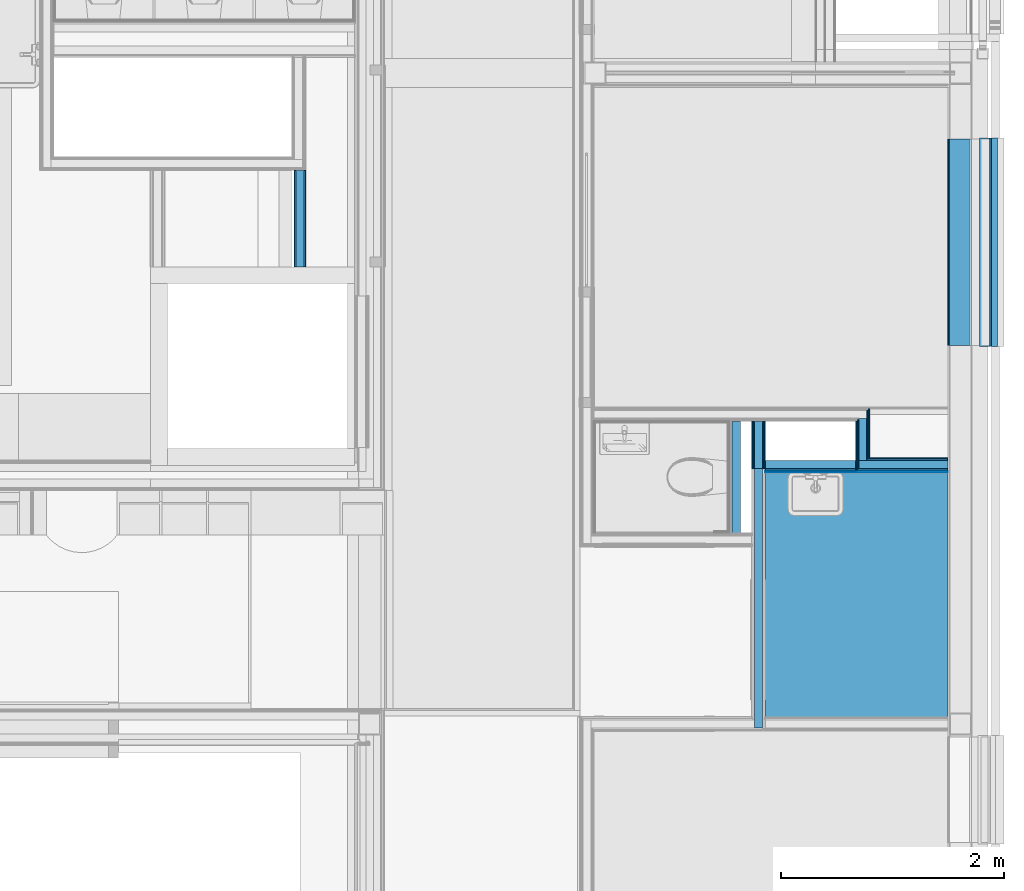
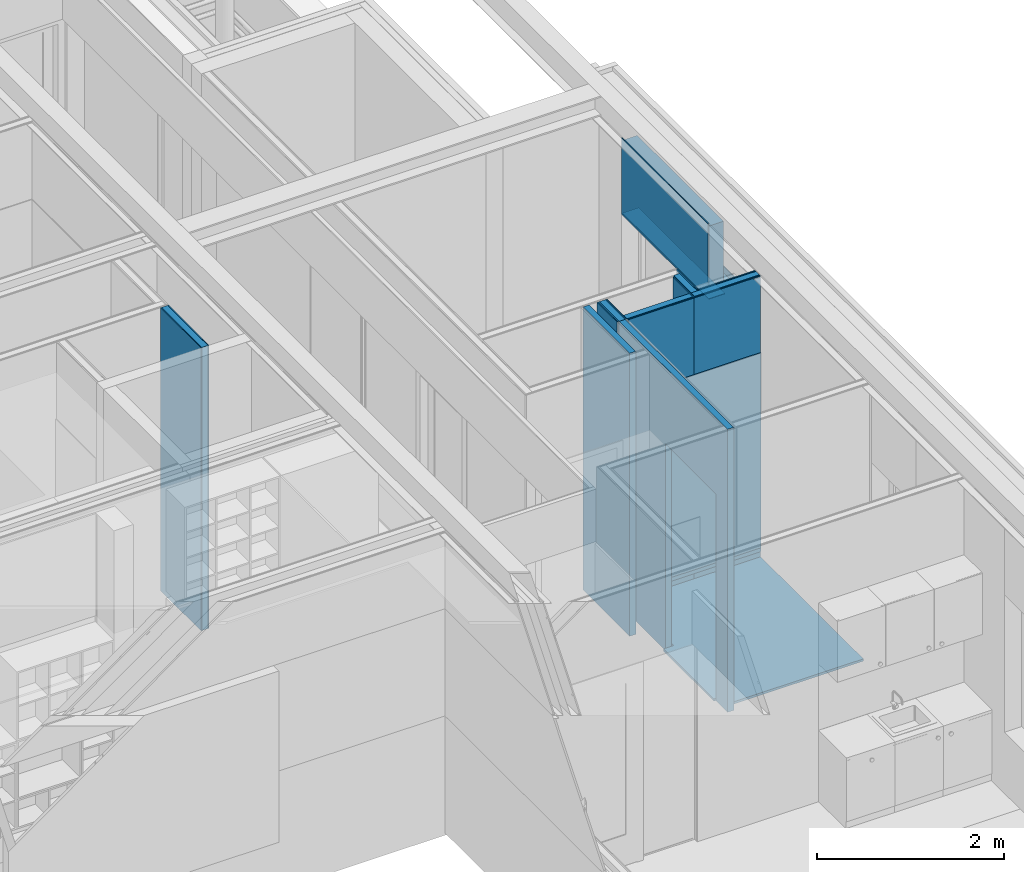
# One storey, part 74 of 137: 31 building element parts, 1 opening, 11 elements without a shape of their own.
"""IFC2X3 building model written with IfcOpenShell, lengths in millimetres."""

from ifc_helpers import new_model, entity, si_unit, converted_unit, derived_unit, money_unit, direction, frame, origin_with_axes, place, context, subcontext, project, spatial, faceted_brep, material, type_object, element, aggregate, save


model = new_model("IFC2X3")

# Units and contexts
model_context = context("Model", 3, precision=0.01, world=origin_with_axes(), true_north=direction((0.0, 1.0)))
body_context = subcontext(model_context, "Body", "Model", "MODEL_VIEW")
ifc_project = project(units=[si_unit("LENGTHUNIT", "METRE", prefix="MILLI"), si_unit("AREAUNIT", "SQUARE_METRE"), si_unit("VOLUMEUNIT", "CUBIC_METRE"), converted_unit("PLANEANGLEUNIT", "DEGREE", entity("IfcPlaneAngleMeasure", 0.0174532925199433), si_unit("PLANEANGLEUNIT", "RADIAN"), dimensions=[0, 0, 0, 0, 0, 0, 0]), money_unit("EUR"), converted_unit("TIMEUNIT", "Year", entity("IfcTimeMeasure", 31556926.0), si_unit("TIMEUNIT", "SECOND"), dimensions=[0, 0, 1, 0, 0, 0, 0]), si_unit("MASSUNIT", "GRAM", prefix="KILO"), si_unit("THERMODYNAMICTEMPERATUREUNIT", "DEGREE_CELSIUS"), si_unit("LUMINOUSINTENSITYUNIT", "LUMEN"), si_unit("ENERGYUNIT", "JOULE", prefix="MEGA"), derived_unit("THERMALCONDUCTANCEUNIT", [(si_unit("POWERUNIT", "WATT"), 1), (si_unit("LENGTHUNIT", "METRE"), -1), (si_unit("THERMODYNAMICTEMPERATUREUNIT", "KELVIN"), -1)]), derived_unit("SPECIFICHEATCAPACITYUNIT", [(si_unit("ENERGYUNIT", "JOULE"), 1), (si_unit("MASSUNIT", "GRAM", prefix="KILO"), -1), (si_unit("THERMODYNAMICTEMPERATUREUNIT", "KELVIN"), -1)]), derived_unit("MASSDENSITYUNIT", [(si_unit("MASSUNIT", "GRAM", prefix="KILO"), 1), (si_unit("VOLUMEUNIT", "CUBIC_METRE"), -1)])], contexts=[model_context])

# Site, building, storey
site_placement = place(None, origin_with_axes())
site = spatial("IfcSite", under=ifc_project, at=site_placement, Name="Site", CompositionType="ELEMENT")
building_placement = place(site_placement, origin_with_axes())
building = spatial("IfcBuilding", under=site, at=building_placement, Name="Naam gebouw", CompositionType="ELEMENT")
storey_placement = place(building_placement, frame((0.0, 0.0, 3960.0), z_axis=(0.0, 0.0, 1.0), x_axis=(1.0, 0.0, 0.0)))
storey = spatial("IfcBuildingStorey", under=building, at=storey_placement, Name="1e verdieping", CompositionType="ELEMENT", Elevation=3960.0)

# Proxy, building element parts
building_element_proxy_type_1 = type_object("IfcBuildingElementProxyType", Name="22 Metal stud 125 gips 125", PredefinedType="NOTDEFINED")
proxy_1_placement = place(storey_placement, frame((29899.99999999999, 13199.99777686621, -100.0000000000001), z_axis=(0.0, 0.0, 1.0), x_axis=(-1.0, 0.0, 0.0)))
proxy_1 = element("IfcBuildingElementProxy", 1, at=proxy_1_placement, inside=storey, type_object=building_element_proxy_type_1, Name="_Wand-x")
ifc_material_1 = material(Name="Gipsplaat")
building_element_part_1_placement = place(proxy_1_placement, origin_with_axes())
building_element_part_1 = element("IfcBuildingElementPart", 2, at=building_element_part_1_placement, material=ifc_material_1, Name="Gipsplaat", context=body_context, shape_type="Brep", body=[
    faceted_brep([(213.9999999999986, 125.0, 3695.000001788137), (213.9999999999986, 112.5000000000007, 3695.000001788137), (213.9999999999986, 112.5000000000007, 3700.0), (213.9999999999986, 125.0, 3700.0), (299.0000049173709, 112.5000000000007, 3695.000001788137), (299.0000049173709, 125.0, 3695.000001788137), (299.0000049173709, 112.5000000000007, 3685.000001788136), (213.9999999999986, 112.5000000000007, 3685.000001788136), (213.9999999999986, 112.5000000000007, 0.0), (1038.999999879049, 112.5000000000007, 0.0), (1038.999999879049, 112.5000000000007, 3700.0), (1038.999999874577, 125.0, 3700.0), (1038.999999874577, 125.0, 0.0), (213.9999999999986, 125.0, 0.0), (213.9999999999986, 125.0, 3685.000001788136), (299.0000049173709, 125.0, 3685.000001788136)], [[[0, 1, 2, 3]], [[4, 1, 0, 5]], [[6, 7, 8, 9, 10, 2, 1, 4]], [[10, 11, 3, 2]], [[5, 0, 3, 11, 12, 13, 14, 15]], [[6, 4, 5, 15]], [[14, 7, 6, 15]], [[7, 14, 13, 8]], [[12, 9, 8, 13]], [[9, 12, 11, 10]]]),
])
ifc_material_2 = material(Name="ALG - LICHTE SCHEIDINGSWAND")
building_element_part_2_placement = place(proxy_1_placement, origin_with_axes())
building_element_part_2 = element("IfcBuildingElementPart", 3, at=building_element_part_2_placement, material=ifc_material_2, Name="ALG - LICHTE SCHEIDINGSWAND", context=body_context, shape_type="Brep", body=[
    faceted_brep([(213.9999999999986, 99.99999999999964, 3695.000001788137), (213.9999999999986, 25.00000000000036, 3695.000001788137), (213.9999999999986, 25.00000000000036, 3700.0), (213.9999999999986, 99.99999999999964, 3700.0), (299.0000049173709, 25.00000000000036, 3695.000001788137), (299.0000049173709, 99.99999999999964, 3695.000001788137), (299.0000049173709, 25.00000000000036, 3685.000001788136), (213.9999999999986, 25.00000000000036, 3685.000001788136), (213.9999999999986, 25.00000000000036, 0.0), (1013.999999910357, 25.00000000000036, 0.0), (1013.999999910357, 25.00000000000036, 3700.0), (1013.999999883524, 99.99999999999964, 3700.0), (1013.999999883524, 99.99999999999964, 0.0), (213.9999999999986, 99.99999999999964, 0.0), (213.9999999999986, 99.99999999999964, 3685.000001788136), (299.0000049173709, 99.99999999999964, 3685.000001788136)], [[[0, 1, 2, 3]], [[4, 1, 0, 5]], [[6, 7, 8, 9, 10, 2, 1, 4]], [[10, 11, 3, 2]], [[5, 0, 3, 11, 12, 13, 14, 15]], [[6, 4, 5, 15]], [[14, 7, 6, 15]], [[7, 14, 13, 8]], [[12, 9, 8, 13]], [[9, 12, 11, 10]]]),
])
building_element_part_3_placement = place(proxy_1_placement, origin_with_axes())
building_element_part_3 = element("IfcBuildingElementPart", 4, at=building_element_part_3_placement, material=ifc_material_1, Name="Gipsplaat", context=body_context, shape_type="Brep", body=[
    faceted_brep([(213.9999999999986, 25.00000000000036, 3695.000001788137), (213.9999999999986, 12.50000000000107, 3695.000001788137), (213.9999999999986, 12.50000000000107, 3700.0), (213.9999999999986, 25.00000000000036, 3700.0), (299.0000049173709, 12.49999999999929, 3695.000001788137), (299.0000049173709, 25.00000000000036, 3695.000001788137), (299.0000049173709, 12.49999999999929, 3685.000001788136), (213.9999999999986, 12.50000000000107, 3685.000001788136), (213.9999999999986, 12.49999999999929, 0.0), (938.9999999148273, 12.49999999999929, 0.0), (938.9999999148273, 12.49999999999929, 3700.0), (938.9999999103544, 25.00000000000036, 3700.0), (938.9999999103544, 25.00000000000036, 0.0), (213.9999999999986, 25.00000000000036, 0.0), (213.9999999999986, 25.00000000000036, 3685.000001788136), (299.0000049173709, 25.00000000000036, 3685.000001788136)], [[[0, 1, 2, 3]], [[4, 1, 0, 5]], [[6, 7, 8, 9, 10, 2, 1, 4]], [[10, 11, 3, 2]], [[5, 0, 3, 11, 12, 13, 14, 15]], [[6, 4, 5, 15]], [[14, 7, 6, 15]], [[7, 14, 13, 8]], [[12, 9, 8, 13]], [[9, 12, 11, 10]]]),
])
building_element_part_4_placement = place(proxy_1_placement, origin_with_axes())
building_element_part_4 = element("IfcBuildingElementPart", 5, at=building_element_part_4_placement, material=ifc_material_1, Name="Gipsplaat", context=body_context, shape_type="Brep", body=[
    faceted_brep([(213.9999999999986, 112.5000000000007, 3695.000001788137), (213.9999999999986, 99.99999999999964, 3695.000001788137), (213.9999999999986, 99.99999999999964, 3700.0), (213.9999999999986, 112.5000000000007, 3700.0), (299.0000049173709, 99.99999999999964, 3695.000001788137), (299.0000049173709, 112.5000000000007, 3695.000001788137), (299.0000049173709, 99.99999999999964, 3685.000001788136), (213.9999999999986, 99.99999999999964, 3685.000001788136), (213.9999999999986, 99.99999999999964, 0.0), (1026.499999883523, 99.99999999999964, 0.0), (1026.499999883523, 99.99999999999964, 3700.0), (1026.49999987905, 112.5000000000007, 3700.0), (1026.49999987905, 112.5000000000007, 0.0), (213.9999999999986, 112.5000000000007, 0.0), (213.9999999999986, 112.5000000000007, 3685.000001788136), (299.0000049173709, 112.5000000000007, 3685.000001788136)], [[[0, 1, 2, 3]], [[4, 1, 0, 5]], [[6, 7, 8, 9, 10, 2, 1, 4]], [[10, 11, 3, 2]], [[5, 0, 3, 11, 12, 13, 14, 15]], [[6, 4, 5, 15]], [[14, 7, 6, 15]], [[7, 14, 13, 8]], [[12, 9, 8, 13]], [[9, 12, 11, 10]]]),
])
building_element_part_5_placement = place(proxy_1_placement, origin_with_axes())
building_element_part_5 = element("IfcBuildingElementPart", 6, at=building_element_part_5_placement, material=ifc_material_1, Name="Gipsplaat", context=body_context, shape_type="Brep", body=[
    faceted_brep([(213.9999999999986, 12.50000000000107, 3695.000001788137), (213.9999999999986, 0.0, 3695.000001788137), (213.9999999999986, 0.0, 3700.0), (213.9999999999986, 12.50000000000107, 3700.0), (299.0000049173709, 0.0, 3695.000001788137), (299.0000049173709, 12.49999999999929, 3695.000001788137), (299.0000049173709, 0.0, 3685.000001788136), (213.9999999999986, 0.0, 3685.000001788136), (213.9999999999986, 0.0, 0.0), (926.4999999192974, 0.0, 0.0), (926.4999999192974, 0.0, 3700.0), (926.499999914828, 12.49999999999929, 3700.0), (926.499999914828, 12.49999999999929, 0.0), (213.9999999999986, 12.49999999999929, 0.0), (213.9999999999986, 12.50000000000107, 3685.000001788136), (299.0000049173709, 12.49999999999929, 3685.000001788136)], [[[0, 1, 2, 3]], [[4, 1, 0, 5]], [[6, 7, 8, 9, 10, 2, 1, 4]], [[10, 11, 3, 2]], [[5, 0, 3, 11, 12, 13, 14, 15]], [[6, 4, 5, 15]], [[14, 7, 6, 15]], [[7, 14, 13, 8]], [[12, 9, 8, 13]], [[9, 12, 11, 10]]]),
])
aggregate(proxy_1, [building_element_part_1, building_element_part_2, building_element_part_3, building_element_part_4, building_element_part_5])

proxy_2_placement = place(storey_placement, frame((27924.99764555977, 13649.99778166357, -100.0000000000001), z_axis=(0.0, 0.0, 1.0), x_axis=(0.0, -1.0, 0.0)))
proxy_2 = element("IfcBuildingElementProxy", 7, at=proxy_2_placement, inside=storey, type_object=building_element_proxy_type_1, Name="_Wand-x")
building_element_part_6_placement = place(proxy_2_placement, origin_with_axes())
building_element_part_6 = element("IfcBuildingElementPart", 8, at=building_element_part_6_placement, material=ifc_material_2, Name="ALG - LICHTE SCHEIDINGSWAND", context=body_context, shape_type="Brep", body=[
    faceted_brep([(549.999999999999, 100.0000000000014, 0.0), (549.999999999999, 24.99999999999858, 0.0), (125.0, 24.99999999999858, 0.0), (125.0, 100.0000000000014, 0.0), (549.999999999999, 100.0000000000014, 3700.0), (549.999999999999, 24.99999999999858, 3700.0), (125.0, 24.99999999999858, 3700.0), (125.0, 100.0000000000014, 3700.0)], [[[0, 1, 2, 3]], [[0, 4, 5, 1]], [[1, 5, 6, 2]], [[3, 2, 6, 7]], [[4, 0, 3, 7]], [[5, 4, 7, 6]]]),
])
building_element_part_7_placement = place(proxy_2_placement, origin_with_axes())
building_element_part_7 = element("IfcBuildingElementPart", 9, at=building_element_part_7_placement, material=ifc_material_1, Name="Gipsplaat", context=body_context, shape_type="Brep", body=[
    faceted_brep([(549.999999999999, 24.99999999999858, 0.0), (549.999999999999, 12.49999999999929, 0.0), (125.0, 12.49999999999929, 0.0), (125.0, 24.99999999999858, 0.0), (549.999999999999, 24.99999999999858, 3700.0), (549.999999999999, 12.49999999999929, 3700.0), (125.0, 12.49999999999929, 3700.0), (125.0, 24.99999999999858, 3700.0)], [[[0, 1, 2, 3]], [[0, 4, 5, 1]], [[1, 5, 6, 2]], [[3, 2, 6, 7]], [[4, 0, 3, 7]], [[5, 4, 7, 6]]]),
])
building_element_part_8_placement = place(proxy_2_placement, origin_with_axes())
building_element_part_8 = element("IfcBuildingElementPart", 10, at=building_element_part_8_placement, material=ifc_material_1, Name="Gipsplaat", context=body_context, shape_type="Brep", body=[
    faceted_brep([(549.999999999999, 12.49999999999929, 0.0), (549.999999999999, 0.0, 0.0), (125.0, 0.0, 0.0), (125.0, 12.49999999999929, 0.0), (549.999999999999, 12.49999999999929, 3700.0), (549.999999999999, 0.0, 3700.0), (125.0, 0.0, 3700.0), (125.0, 12.49999999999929, 3700.0)], [[[0, 1, 2, 3]], [[0, 4, 5, 1]], [[1, 5, 6, 2]], [[3, 2, 6, 7]], [[4, 0, 3, 7]], [[5, 4, 7, 6]]]),
])
building_element_part_9_placement = place(proxy_2_placement, origin_with_axes())
building_element_part_9 = element("IfcBuildingElementPart", 11, at=building_element_part_9_placement, material=ifc_material_1, Name="Gipsplaat", context=body_context, shape_type="Brep", body=[
    faceted_brep([(549.999999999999, 112.5000000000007, 0.0), (549.999999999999, 100.0000000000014, 0.0), (125.0, 100.0000000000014, 0.0), (125.0, 112.5000000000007, 0.0), (549.999999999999, 112.5000000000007, 3700.0), (549.999999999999, 100.0000000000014, 3700.0), (125.0, 100.0000000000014, 3700.0), (125.0, 112.5000000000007, 3700.0)], [[[0, 1, 2, 3]], [[0, 4, 5, 1]], [[1, 5, 6, 2]], [[3, 2, 6, 7]], [[4, 0, 3, 7]], [[5, 4, 7, 6]]]),
])
building_element_part_10_placement = place(proxy_2_placement, origin_with_axes())
building_element_part_10 = element("IfcBuildingElementPart", 12, at=building_element_part_10_placement, material=ifc_material_1, Name="Gipsplaat", context=body_context, shape_type="Brep", body=[
    faceted_brep([(549.999999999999, 125.0, 0.0), (549.999999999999, 112.5000000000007, 0.0), (125.0, 112.5000000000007, 0.0), (125.0, 125.0, 0.0), (549.999999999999, 125.0, 3700.0), (549.999999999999, 112.5000000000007, 3700.0), (125.0, 112.5000000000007, 3700.0), (125.0, 125.0, 3700.0)], [[[0, 1, 2, 3]], [[0, 4, 5, 1]], [[1, 5, 6, 2]], [[3, 2, 6, 7]], [[4, 0, 3, 7]], [[5, 4, 7, 6]]]),
])
aggregate(proxy_2, [building_element_part_6, building_element_part_7, building_element_part_8, building_element_part_9, building_element_part_10])

building_element_proxy_type_2 = type_object("IfcBuildingElementProxyType", Name="22 Metal stud 100 voorzetwand 100", PredefinedType="NOTDEFINED")
proxy_3_placement = place(storey_placement, frame((27924.99764555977, 13074.99778166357, -100.0000000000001), z_axis=(0.0, 0.0, 1.0), x_axis=(1.0, -5.125370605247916e-09, 0.0)))
proxy_3 = element("IfcBuildingElementProxy", 13, at=proxy_3_placement, inside=storey, type_object=building_element_proxy_type_2, Name="_Wand-x")
building_element_part_11_placement = place(proxy_3_placement, origin_with_axes())
building_element_part_11 = element("IfcBuildingElementPart", 14, at=building_element_part_11_placement, material=ifc_material_1, Name="Gipsplaat", context=body_context, shape_type="Brep", body=[
    faceted_brep([(936.0023545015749, 25.00000479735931, 0.0), (936.0023545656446, 12.50000479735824, 0.0), (124.9999999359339, 12.50000064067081, 0.0), (124.9999998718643, 25.00000064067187, 0.0), (936.0023545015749, 25.00000479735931, 3700.0), (936.0023545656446, 12.50000479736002, 3700.0), (124.9999999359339, 12.50000064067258, 3700.0), (124.9999998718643, 25.00000064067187, 3700.0)], [[[0, 1, 2, 3]], [[0, 4, 5, 1]], [[1, 5, 6, 2]], [[3, 2, 6, 7]], [[4, 0, 3, 7]], [[5, 4, 7, 6]]]),
])
building_element_part_12_placement = place(proxy_3_placement, origin_with_axes())
building_element_part_12 = element("IfcBuildingElementPart", 15, at=building_element_part_12_placement, material=ifc_material_2, Name="ALG - LICHTE SCHEIDINGSWAND", context=body_context, shape_type="Brep", body=[
    faceted_brep([(936.0023541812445, 100.0000047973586, 0.0), (936.0023545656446, 25.00000479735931, 0.0), (124.9999998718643, 25.00000064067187, 0.0), (124.9999994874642, 100.0000006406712, 0.0), (936.0023541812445, 100.0000047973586, 3700.0), (936.0023545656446, 25.00000479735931, 3700.0), (124.9999998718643, 25.00000064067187, 3700.0), (124.9999994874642, 100.0000006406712, 3700.0)], [[[0, 1, 2, 3]], [[0, 4, 5, 1]], [[1, 5, 6, 2]], [[3, 2, 6, 7]], [[4, 0, 3, 7]], [[5, 4, 7, 6]]]),
])
building_element_part_13_placement = place(proxy_3_placement, origin_with_axes())
building_element_part_13 = element("IfcBuildingElementPart", 16, at=building_element_part_13_placement, material=ifc_material_1, Name="Gipsplaat", context=body_context, shape_type="Brep", body=[
    faceted_brep([(936.0023545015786, 12.50000479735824, 0.0), (936.0023545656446, 4.797358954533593e-06, 0.0), (125.0, 6.406715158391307e-07, 0.0), (124.9999999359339, 12.50000064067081, 0.0), (936.0023545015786, 12.50000479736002, 3700.0), (936.0023545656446, 4.797358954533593e-06, 3700.0), (125.0, 6.406715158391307e-07, 3700.0), (124.9999999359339, 12.50000064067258, 3700.0)], [[[0, 1, 2, 3]], [[0, 4, 5, 1]], [[1, 5, 6, 2]], [[3, 2, 6, 7]], [[4, 0, 3, 7]], [[5, 4, 7, 6]]]),
])
aggregate(proxy_3, [building_element_part_11, building_element_part_12, building_element_part_13])

# Proxy, building element part
proxy_4_placement = place(storey_placement, frame((27724.99819637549, 13524.99144022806, -100.0000000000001), z_axis=(0.0, 0.0, 1.0), x_axis=(-4.734245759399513e-08, -0.9999999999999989, 0.0)))
proxy_4 = element("IfcBuildingElementProxy", 17, at=proxy_4_placement, inside=storey, type_object=building_element_proxy_type_2, Name="_Wand-x")
building_element_part_14_placement = place(proxy_4_placement, origin_with_axes())
building_element_part_14 = element("IfcBuildingElementPart", 18, at=building_element_part_14_placement, material=ifc_material_2, Name="ALG - LICHTE SCHEIDINGSWAND", context=body_context, shape_type="Brep", body=[
    faceted_brep([(999.998947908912, 25.00004734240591, 0.0), (-1.183561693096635e-06, 24.99999999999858, 0.0), (-4.734244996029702e-06, 100.0000000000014, 0.0), (999.998894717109, 100.0000473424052, 0.0), (999.998947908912, 25.00004734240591, 3700.0), (-1.183561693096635e-06, 24.99999999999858, 3700.0), (-4.734244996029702e-06, 100.0000000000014, 3700.0), (999.998894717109, 100.0000473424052, 3700.0)], [[[0, 1, 2, 3]], [[4, 5, 1, 0]], [[2, 1, 5, 6]], [[3, 2, 6, 7]], [[3, 7, 4, 0]], [[7, 6, 5, 4]]]),
])
aggregate(proxy_4, [building_element_part_14])

# Beam, building element parts
beam_type_1 = type_object("IfcBeamType", Name="41 Latei/geveldrager 158 x 112", PredefinedType="BEAM")
beam_1_placement = place(storey_placement, frame((30079.99999999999, 16065.99778166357, 2610.0), z_axis=(0.0, 0.0, 1.0), x_axis=(-1.0, 0.0, 0.0)))
beam_1 = element("IfcBeam", 19, at=beam_1_placement, inside=storey, type_object=beam_type_1, Name="_Regenwaterafvoer-x", ObjectType="BEAM")
ifc_material_3 = material(Name="Metaal - Staal C")
building_element_part_15_placement = place(beam_1_placement, origin_with_axes())
building_element_part_15 = element("IfcBuildingElementPart", 20, at=building_element_part_15_placement, material=ifc_material_3, Name="Metaal - Staal C", context=body_context, shape_type="Brep", body=[
    faceted_brep([(-50.00000000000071, 1870.000000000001, 6.55651533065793e-07), (-50.00000000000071, 1870.000000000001, -3.000000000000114), (-50.00000000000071, 0.0, -3.000000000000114), (-50.00000000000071, 0.0, 6.55651533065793e-07), (-5.9603877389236e-08, 1870.000000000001, 6.55651533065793e-07), (-5.9603877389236e-08, 1870.000000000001, 99.3417707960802), (16.54654975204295, 1870.000000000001, 108.8949262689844), (18.04655007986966, 1870.000000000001, 106.2968498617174), (3.000000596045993, 1870.000000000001, 96.99999988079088), (3.000000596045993, 1870.000000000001, 6.55651533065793e-07), (3.000000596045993, 1870.000000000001, -3.000000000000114), (3.000000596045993, 0.0, -3.000000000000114), (3.000000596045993, 0.0, 6.55651533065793e-07), (3.000000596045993, 0.0, 96.99999988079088), (18.04655007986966, 0.0, 106.2968498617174), (16.54654975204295, 0.0, 108.8949262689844), (-5.9603877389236e-08, 0.0, 99.3417707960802), (-5.9603877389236e-08, 0.0, 6.55651533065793e-07)], [[[0, 1, 2, 3]], [[0, 4, 5, 6, 7, 8, 9, 10, 1]], [[1, 10, 11, 2]], [[3, 2, 11, 12, 13, 14, 15, 16, 17]], [[4, 0, 3, 17]], [[5, 4, 17, 16]], [[6, 5, 16, 15]], [[7, 6, 15, 14]], [[8, 7, 14, 13]], [[9, 8, 13, 12]], [[10, 9, 12, 11]]]),
])
building_element_part_16_placement = place(beam_1_placement, origin_with_axes())
building_element_part_16 = element("IfcBuildingElementPart", 21, at=building_element_part_16_placement, material=ifc_material_3, Name="Metaal - Staal C", context=body_context, shape_type="Brep", body=[
    faceted_brep([(3.000000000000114, 1870.000000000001, -3.000000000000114), (108.0000000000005, 1870.000000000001, -3.000000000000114), (108.0000000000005, 0.0, -3.000000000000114), (3.000000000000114, 0.0, -3.000000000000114), (3.000000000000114, 1870.000000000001, 0.0), (108.0000000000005, 1870.000000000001, 0.0), (108.0000000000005, 0.0, 0.0), (3.000000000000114, 0.0, 0.0)], [[[0, 1, 2, 3]], [[0, 4, 5, 1]], [[1, 5, 6, 2]], [[3, 2, 6, 7]], [[4, 0, 3, 7]], [[5, 4, 7, 6]]]),
])
aggregate(beam_1, [building_element_part_15, building_element_part_16])

# Proxy, opening, building element part
building_element_proxy_type_3 = type_object("IfcBuildingElementProxyType", Name="22 Metal stud 125 oregon pine 125", PredefinedType="NOTDEFINED")
proxy_5_placement = place(storey_placement, frame((27924.99764555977, 13099.99778166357, -100.0000000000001), z_axis=(0.0, 0.0, 1.0), x_axis=(0.0, -1.0, 0.0)))
proxy_5 = element("IfcBuildingElementProxy", 22, at=proxy_5_placement, inside=storey, type_object=building_element_proxy_type_3, Name="_Wand-x")
opening_placement = place(proxy_5_placement, frame((1535.012679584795, 0.0, 100.0000000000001), z_axis=(0.0, 0.0, 1.0), x_axis=(1.0, 0.0, 0.0)))
element("IfcOpeningElement", 23, at=opening_placement, cuts=proxy_5, Name="_02.04", context=body_context, shape_type="Brep", body=[
    faceted_brep([(539.9999999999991, 126.0000000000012, 2600.0), (539.9999999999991, 126.0000000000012, -100.0000000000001), (-539.9999999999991, 126.0000000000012, -100.0000000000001), (-539.9999999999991, 126.0000000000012, 2600.0), (539.9999999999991, -1.000000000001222, 2600.0), (539.9999999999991, -1.000000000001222, -100.0000000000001), (-539.9999999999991, -1.000000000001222, -100.0000000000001), (-539.9999999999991, -1.000000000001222, 2600.0)], [[[0, 1, 2, 3]], [[4, 5, 1, 0]], [[5, 6, 2, 1]], [[6, 7, 3, 2]], [[7, 4, 0, 3]], [[6, 5, 4, 7]]]),
])
building_element_part_17_placement = place(proxy_5_placement, origin_with_axes())
building_element_part_17 = element("IfcBuildingElementPart", 24, at=building_element_part_17_placement, material=ifc_material_2, Name="ALG - LICHTE SCHEIDINGSWAND", context=body_context, shape_type="Brep", body=[
    faceted_brep([(2075.012679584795, 100.0000000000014, 0.0), (2075.012679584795, 100.0000000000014, 2700.0), (995.0126795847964, 100.0000000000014, 2700.0), (995.0126795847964, 100.0000000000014, 0.0), (0.0, 100.0000000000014, 0.0), (0.0, 100.0000000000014, 3700.0), (2327.497671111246, 100.0000000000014, 3700.0), (2327.497671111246, 100.0000000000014, 0.0), (2075.012679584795, 24.99999999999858, 0.0), (2075.012679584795, 24.99999999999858, 2700.0), (995.0126795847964, 24.99999999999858, 2700.0), (995.0126795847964, 24.99999999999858, 0.0), (0.0, 24.99999999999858, 0.0), (0.0, 24.99999999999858, 3700.0), (2327.497671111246, 24.99999999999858, 3700.0), (2327.497671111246, 24.99999999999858, 0.0)], [[[0, 1, 2, 3, 4, 5, 6, 7]], [[1, 0, 8, 9]], [[2, 1, 9, 10]], [[3, 2, 10, 11]], [[3, 11, 12, 4]], [[12, 13, 5, 4]], [[5, 13, 14, 6]], [[6, 14, 15, 7]], [[8, 0, 7, 15]], [[9, 8, 15, 14, 13, 12, 11, 10]]]),
])
aggregate(proxy_5, [building_element_part_17])

# Slab, building element part
slab_type = type_object("IfcSlabType", Name="43 Zwevende dekvloer 100", PredefinedType="NOTDEFINED")
slab_placement = place(storey_placement, frame((27924.99764555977, 12105.11407573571, 0.0), z_axis=(0.0, 0.0, 1.0), x_axis=(1.0, 0.0, 0.0)))
slab = element("IfcSlab", 25, at=slab_placement, inside=storey, type_object=slab_type, Name="_Vloer-x", PredefinedType="NOTDEFINED")
ifc_material_4 = material(Name="Isolatie - XPS zwevende dekvloer")
building_element_part_18_placement = place(slab_placement, origin_with_axes())
building_element_part_18 = element("IfcBuildingElementPart", 26, at=building_element_part_18_placement, material=ifc_material_4, Name="Isolatie - XPS zwevende dekvloer", context=body_context, shape_type="Brep", body=[
    faceted_brep([(0.0, 0.0, -100.0000000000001), (0.0, -1080.128973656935, -100.0000000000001), (0.0, -1080.128973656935, -69.99999999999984), (0.0, 0.0, -69.99999999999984), (125.0, -0.1289736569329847, -100.0000000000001), (125.0000044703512, 969.8837014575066, -100.0000000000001), (1761.002354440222, 969.8837059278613, -100.0000000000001), (1761.002354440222, -1232.613965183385, -100.0000000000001), (125.0, -1232.613965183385, -100.0000000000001), (125.0, -1080.128973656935, -100.0000000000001), (125.0, -1080.128973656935, -69.99999999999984), (125.0, -1232.613965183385, -69.99999999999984), (1761.002354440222, -1232.613965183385, -69.99999999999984), (1761.002354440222, 969.8837059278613, -69.99999999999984), (125.0000044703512, 969.8837014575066, -69.99999999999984), (125.0, -0.1289736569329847, -69.99999999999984)], [[[0, 1, 2, 3]], [[0, 4, 5, 6, 7, 8, 9, 1]], [[1, 9, 10, 2]], [[3, 2, 10, 11, 12, 13, 14, 15]], [[4, 0, 3, 15]], [[5, 4, 15, 14]], [[6, 5, 14, 13]], [[7, 6, 13, 12]], [[8, 7, 12, 11]], [[9, 8, 11, 10]]]),
])
aggregate(slab, [building_element_part_18])

# Beam, building element parts
beam_type_2 = type_object("IfcBeamType", Name="31 HSB boven kozijnen 214 x 1000", PredefinedType="BEAM")
beam_2_placement = place(storey_placement, frame((29685.99999999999, 16055.99778166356, 2600.000000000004), z_axis=(0.0, 0.0, 1.0), x_axis=(-1.0, 0.0, 0.0)))
beam_2 = element("IfcBeam", 27, at=beam_2_placement, inside=storey, type_object=beam_type_2, Name="28_Balk-x", ObjectType="BEAM")
building_element_part_19_placement = place(beam_2_placement, origin_with_axes())
building_element_part_19 = element("IfcBuildingElementPart", 28, at=building_element_part_19_placement, material=ifc_material_1, Name="Gipsplaat", context=body_context, shape_type="Brep", body=[
    faceted_brep([(-11.99999661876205, 1849.999999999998, 0.0), (9.341707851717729e-06, 1849.999999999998, 0.0), (9.341711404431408e-06, 0.0, 0.0), (-11.99999661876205, 0.0, 0.0), (-11.99999661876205, 1849.999999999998, 999.9999999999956), (9.341707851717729e-06, 1849.999999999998, 999.9999999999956), (9.341707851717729e-06, 0.0, 999.9999999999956), (-11.99999661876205, 0.0, 999.9999999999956)], [[[0, 1, 2, 3]], [[0, 4, 5, 1]], [[1, 5, 6, 2]], [[3, 2, 6, 7]], [[4, 0, 3, 7]], [[5, 4, 7, 6]]]),
])
building_element_part_20_placement = place(beam_2_placement, origin_with_axes())
building_element_part_20 = element("IfcBuildingElementPart", 29, at=building_element_part_20_placement, material=ifc_material_1, Name="Gipsplaat", context=body_context, shape_type="Brep", body=[
    faceted_brep([(-214.0000025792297, 1849.999999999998, 12.00000596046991), (-214.0000025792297, 1849.999999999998, 0.0), (-214.0000025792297, 0.0, 0.0), (-214.0000025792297, 0.0, 12.00000596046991), (-11.99999661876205, 1849.999999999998, 12.00000596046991), (-11.99999661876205, 1849.999999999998, 0.0), (-11.99999661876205, 0.0, 0.0), (-11.99999661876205, 0.0, 12.00000596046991)], [[[0, 1, 2, 3]], [[0, 4, 5, 1]], [[1, 5, 6, 2]], [[3, 2, 6, 7]], [[4, 0, 3, 7]], [[5, 4, 7, 6]]]),
])
ifc_material_5 = material(Name="ALG - ISOLATIE")
building_element_part_21_placement = place(beam_2_placement, origin_with_axes())
building_element_part_21 = element("IfcBuildingElementPart", 30, at=building_element_part_21_placement, material=ifc_material_5, Name="ALG - ISOLATIE", context=body_context, shape_type="Brep", body=[
    faceted_brep([(-12.00000000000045, 1849.999999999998, 49.99999999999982), (-12.00000000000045, 1849.999999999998, 961.9999999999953), (-12.00000000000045, 0.0, 961.9999999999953), (-12.00000000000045, 0.0, 49.99999999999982), (-196.0000000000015, 1849.999999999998, 49.99999999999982), (-196.0000000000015, 1849.999999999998, 961.9999999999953), (-196.0000000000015, 0.0, 961.9999999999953), (-195.999999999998, 0.0, 49.99999999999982)], [[[0, 1, 2, 3]], [[0, 4, 5, 1]], [[1, 5, 6, 2]], [[3, 2, 6, 7]], [[4, 0, 3, 7]], [[5, 4, 7, 6]]]),
])
aggregate(beam_2, [building_element_part_19, building_element_part_20, building_element_part_21])

# Proxy, building element parts
building_element_proxy_type_4 = type_object("IfcBuildingElementProxyType", Name="22 Metal stud 100 gips 100", PredefinedType="NOTDEFINED")
proxy_6_placement = place(storey_placement, frame((23924.99903999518, 15774.9977815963, -100.0000000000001), z_axis=(0.0, 0.0, 1.0), x_axis=(0.0, -1.0, 0.0)))
proxy_6 = element("IfcBuildingElementProxy", 31, at=proxy_6_placement, inside=storey, type_object=building_element_proxy_type_4, Name="_Wand-x")
building_element_part_22_placement = place(proxy_6_placement, origin_with_axes())
building_element_part_22 = element("IfcBuildingElementPart", 32, at=building_element_part_22_placement, material=ifc_material_1, Name="Gipsplaat", context=body_context, shape_type="Brep", body=[
    faceted_brep([(865.0000795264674, 0.0, 3700.0), (0.0, 0.0, 3700.0), (0.0, -12.49999999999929, 3700.0), (865.0000795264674, -12.49999999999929, 3700.0), (865.0000795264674, 0.0, 0.0), (0.0, 0.0, 0.0), (0.0, -12.49999999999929, 0.0), (865.0000795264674, -12.49999999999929, 0.0)], [[[0, 1, 2, 3]], [[4, 5, 1, 0]], [[2, 1, 5, 6]], [[3, 2, 6, 7]], [[3, 7, 4, 0]], [[7, 6, 5, 4]]]),
])
building_element_part_23_placement = place(proxy_6_placement, origin_with_axes())
building_element_part_23 = element("IfcBuildingElementPart", 33, at=building_element_part_23_placement, material=ifc_material_1, Name="Gipsplaat", context=body_context, shape_type="Brep", body=[
    faceted_brep([(865.0000795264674, -87.49999999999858, 3700.0), (0.0, -87.49999999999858, 3700.0), (0.0, -100.0000000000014, 3700.0), (865.0000795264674, -100.0000000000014, 3700.0), (865.0000795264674, -87.49999999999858, 0.0), (0.0, -87.49999999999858, 0.0), (0.0, -100.0000000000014, 0.0), (865.0000795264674, -100.0000000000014, 0.0)], [[[0, 1, 2, 3]], [[4, 5, 1, 0]], [[2, 1, 5, 6]], [[3, 2, 6, 7]], [[3, 7, 4, 0]], [[7, 6, 5, 4]]]),
])
building_element_part_24_placement = place(proxy_6_placement, origin_with_axes())
building_element_part_24 = element("IfcBuildingElementPart", 34, at=building_element_part_24_placement, material=ifc_material_2, Name="ALG - LICHTE SCHEIDINGSWAND", context=body_context, shape_type="Brep", body=[
    faceted_brep([(865.0000795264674, -12.49999999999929, 3700.0), (0.0, -12.49999999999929, 3700.0), (0.0, -87.49999999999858, 3700.0), (865.0000795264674, -87.49999999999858, 3700.0), (865.0000795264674, -12.49999999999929, 0.0), (0.0, -12.49999999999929, 0.0), (0.0, -87.49999999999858, 0.0), (865.0000795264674, -87.49999999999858, 0.0)], [[[0, 1, 2, 3]], [[4, 5, 1, 0]], [[2, 1, 5, 6]], [[3, 2, 6, 7]], [[3, 7, 4, 0]], [[7, 6, 5, 4]]]),
])
aggregate(proxy_6, [building_element_part_22, building_element_part_23, building_element_part_24])

proxy_7_placement = place(storey_placement, frame((28986.00000008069, 13199.99777686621, -100.0000000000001), z_axis=(0.0, 0.0, 1.0), x_axis=(-3.577740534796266e-10, 1.0, 0.0)))
proxy_7 = element("IfcBuildingElementProxy", 35, at=proxy_7_placement, inside=storey, type_object=building_element_proxy_type_1, Name="_Wand-x")
building_element_part_25_placement = place(proxy_7_placement, origin_with_axes())
building_element_part_25 = element("IfcBuildingElementPart", 36, at=building_element_part_25_placement, material=ifc_material_1, Name="Gipsplaat", context=body_context, shape_type="Brep", body=[
    faceted_brep([(325.0000048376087, 112.4999998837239, 0.0), (-112.4999999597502, 112.5000000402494, 0.0), (-112.4999999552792, 125.0000000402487, 0.0), (325.0000048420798, 124.9999998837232, 0.0), (325.0000048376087, 112.4999998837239, 3700.0), (-112.4999999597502, 112.5000000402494, 3700.0), (-112.4999999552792, 125.0000000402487, 3700.0), (325.0000048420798, 124.9999998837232, 3700.0)], [[[0, 1, 2, 3]], [[4, 5, 1, 0]], [[2, 1, 5, 6]], [[3, 2, 6, 7]], [[3, 7, 4, 0]], [[7, 6, 5, 4]]]),
])
building_element_part_26_placement = place(proxy_7_placement, origin_with_axes())
building_element_part_26 = element("IfcBuildingElementPart", 37, at=building_element_part_26_placement, material=ifc_material_1, Name="Gipsplaat", context=body_context, shape_type="Brep", body=[
    faceted_brep([(337.5000048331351, 99.99999987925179, 0.0), (-99.99999996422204, 100.0000000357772, 0.0), (-99.99999995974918, 112.5000000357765, 0.0), (337.500004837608, 112.4999998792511, 0.0), (337.5000048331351, 99.99999987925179, 3700.0), (-99.99999996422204, 100.0000000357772, 3700.0), (-99.99999995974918, 112.5000000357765, 3700.0), (337.500004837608, 112.4999998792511, 3700.0)], [[[0, 1, 2, 3]], [[4, 5, 1, 0]], [[2, 1, 5, 6]], [[3, 2, 6, 7]], [[3, 7, 4, 0]], [[7, 6, 5, 4]]]),
])
building_element_part_27_placement = place(proxy_7_placement, origin_with_axes())
building_element_part_27 = element("IfcBuildingElementPart", 38, at=building_element_part_27_placement, material=ifc_material_2, Name="ALG - LICHTE SCHEIDINGSWAND", context=body_context, shape_type="Brep", body=[
    faceted_brep([(350.0000048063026, 24.99999987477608, 0.0), (-24.9999999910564, 25.00000000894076, 0.0), (-24.99999996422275, 100.0000000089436, 0.0), (350.0000048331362, 99.99999987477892, 0.0), (350.0000048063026, 24.99999987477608, 3700.0), (-24.9999999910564, 25.00000000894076, 3700.0), (-24.99999996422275, 100.0000000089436, 3700.0), (350.0000048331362, 99.99999987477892, 3700.0)], [[[0, 1, 2, 3]], [[4, 5, 1, 0]], [[2, 1, 5, 6]], [[3, 2, 6, 7]], [[3, 7, 4, 0]], [[7, 6, 5, 4]]]),
])
building_element_part_28_placement = place(proxy_7_placement, origin_with_axes())
building_element_part_28 = element("IfcBuildingElementPart", 39, at=building_element_part_28_placement, material=ifc_material_1, Name="Gipsplaat", context=body_context, shape_type="Brep", body=[
    faceted_brep([(437.5000047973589, -1.565290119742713e-07, 0.0), (0.0, 0.0, 0.0), (4.472866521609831e-09, 12.49999999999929, 0.0), (437.5000048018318, 12.49999984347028, 0.0), (437.5000047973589, -1.565290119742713e-07, 3700.0), (0.0, 0.0, 3700.0), (4.472866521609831e-09, 12.49999999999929, 3700.0), (437.5000048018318, 12.49999984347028, 3700.0)], [[[0, 1, 2, 3]], [[4, 5, 1, 0]], [[2, 1, 5, 6]], [[3, 2, 6, 7]], [[3, 7, 4, 0]], [[7, 6, 5, 4]]]),
])
building_element_part_29_placement = place(proxy_7_placement, origin_with_axes())
building_element_part_29 = element("IfcBuildingElementPart", 40, at=building_element_part_29_placement, material=ifc_material_1, Name="Gipsplaat", context=body_context, shape_type="Brep", body=[
    faceted_brep([(425.0000048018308, 12.49999984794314, 0.0), (-12.49999999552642, 12.5000000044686, 0.0), (-12.49999999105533, 25.00000000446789, 0.0), (425.0000048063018, 24.99999984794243, 0.0), (425.0000048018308, 12.49999984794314, 3700.0), (-12.49999999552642, 12.5000000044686, 3700.0), (-12.49999999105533, 25.00000000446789, 3700.0), (425.0000048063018, 24.99999984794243, 3700.0)], [[[0, 1, 2, 3]], [[4, 5, 1, 0]], [[2, 1, 5, 6]], [[3, 2, 6, 7]], [[3, 7, 4, 0]], [[7, 6, 5, 4]]]),
])
aggregate(proxy_7, [building_element_part_25, building_element_part_26, building_element_part_27, building_element_part_28, building_element_part_29])

building_element_proxy_type_5 = type_object("IfcBuildingElementProxyType", Name="42 Tegelwerk 2600+ 12 x 2600", PredefinedType="NOTDEFINED")
proxy_8_placement = place(storey_placement, frame((28049.99764551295, 13054.99778549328, 0.0), z_axis=(0.0, 0.0, 1.0), x_axis=(1.0, -2.340892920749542e-09, 0.0)))
proxy_8 = element("IfcBuildingElementProxy", 41, at=proxy_8_placement, inside=storey, type_object=building_element_proxy_type_5, Name="_Wand-x")
ifc_material_6 = material(Name="48 vloeivloer Bolidt")
building_element_part_30_placement = place(proxy_8_placement, origin_with_axes())
building_element_part_30 = element("IfcBuildingElementPart", 42, at=building_element_part_30_placement, material=ifc_material_6, Name="48 vloeivloer Bolidt", context=body_context, shape_type="Brep", body=[
    faceted_brep([(1636.002354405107, 15.00000233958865, 50.00000596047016), (1636.002354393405, 19.99998743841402, 50.00000596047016), (-4.6817660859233e-08, 19.99998360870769, 50.00000596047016), (-3.511502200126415e-08, 14.99999850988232, 50.00000596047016), (1636.002354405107, 15.00000233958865, 0.0), (1636.002354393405, 19.99998743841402, 0.0), (-4.6817660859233e-08, 19.99998360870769, 0.0), (-3.511502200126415e-08, 14.99999850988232, 0.0)], [[[0, 1, 2, 3]], [[0, 4, 5, 1]], [[1, 5, 6, 2]], [[3, 2, 6, 7]], [[4, 0, 3, 7]], [[5, 4, 7, 6]]]),
])
ifc_material_7 = material(Name="21 STO lijmlaag")
building_element_part_31_placement = place(proxy_8_placement, origin_with_axes())
building_element_part_31 = element("IfcBuildingElementPart", 43, at=building_element_part_31_placement, material=ifc_material_7, Name="21 STO lijmlaag", context=body_context, shape_type="Brep", body=[
    faceted_brep([(1636.00235440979, 13.00000830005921, 2600.0), (1636.002354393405, 19.9999993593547, 2600.0), (-4.6817660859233e-08, 19.99999552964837, 2600.0), (-3.043254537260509e-08, 13.00000447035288, 2600.0), (1636.00235440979, 13.00000830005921, 49.99999999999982), (1636.002354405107, 15.00000233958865, 50.00000596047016), (1636.002354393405, 19.99999935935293, 49.99999999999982), (-4.6817660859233e-08, 19.9999955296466, 49.99999999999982), (-3.511502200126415e-08, 14.99999850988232, 50.00000596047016), (-3.043254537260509e-08, 13.00000447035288, 49.99999999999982)], [[[0, 1, 2, 3]], [[0, 4, 5, 6, 1]], [[1, 6, 7, 2]], [[3, 2, 7, 8, 9]], [[4, 0, 3, 9]], [[5, 4, 9, 8]], [[6, 5, 8, 7]]]),
])
aggregate(proxy_8, [building_element_part_30, building_element_part_31])

save(model, "model.ifc")
